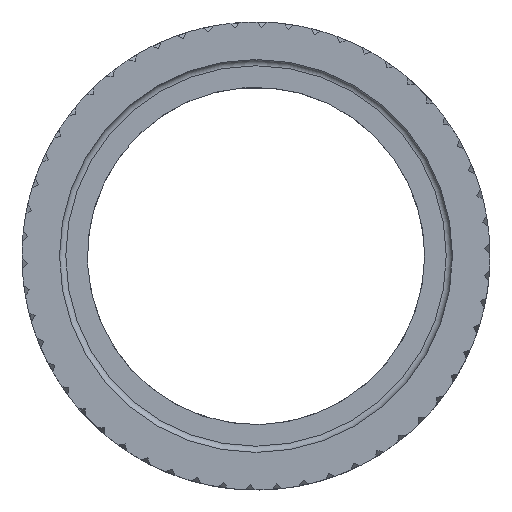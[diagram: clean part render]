
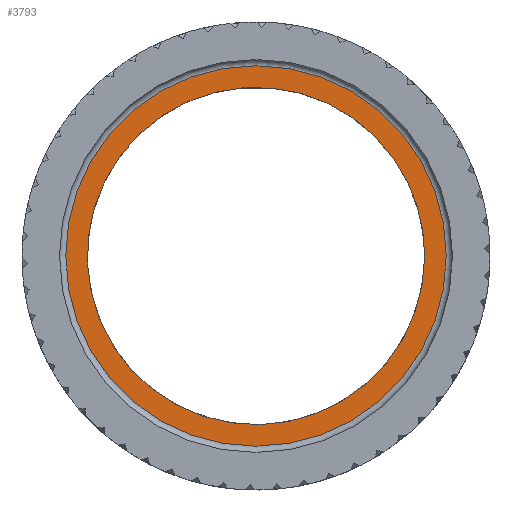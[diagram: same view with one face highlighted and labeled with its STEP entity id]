
A CAD part, top view. The second image highlights one B-rep face of the part: STEP entity #3793.
In plain terms, the highlighted planar face has unit normal (0, 0, 1).
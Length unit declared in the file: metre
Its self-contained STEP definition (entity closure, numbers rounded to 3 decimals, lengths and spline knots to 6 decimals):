
#425=PLANE('',#4034);
#492=CIRCLE('',#4035,0.03045);
#493=CIRCLE('',#4036,0.027);
#651=ORIENTED_EDGE('',*,*,#1951,.T.);
#652=ORIENTED_EDGE('',*,*,#1952,.T.);
#1951=EDGE_CURVE('',#2601,#2601,#492,.F.);
#1952=EDGE_CURVE('',#2602,#2602,#493,.T.);
#2601=VERTEX_POINT('',#4898);
#2602=VERTEX_POINT('',#4900);
#3320=EDGE_LOOP('',(#651));
#3321=EDGE_LOOP('',(#652));
#3556=FACE_BOUND('',#3320,.T.);
#3557=FACE_BOUND('',#3321,.T.);
#3793=ADVANCED_FACE('',(#3556,#3557),#425,.F.);
#4034=AXIS2_PLACEMENT_3D('',#4896,#4231,#4232);
#4035=AXIS2_PLACEMENT_3D('',#4897,#4233,#4234);
#4036=AXIS2_PLACEMENT_3D('',#4899,#4235,#4236);
#4231=DIRECTION('',(0.,0.,-1.));
#4232=DIRECTION('',(0.819,0.574,0.));
#4233=DIRECTION('',(0.,0.,-1.));
#4234=DIRECTION('',(1.,0.,0.));
#4235=DIRECTION('',(0.,0.,-1.));
#4236=DIRECTION('',(1.,0.,0.));
#4896=CARTESIAN_POINT('',(0.,0.,0.0718));
#4897=CARTESIAN_POINT('',(0.,0.,0.0718));
#4898=CARTESIAN_POINT('',(0.03045,0.,0.0718));
#4899=CARTESIAN_POINT('',(0.,0.,0.0718));
#4900=CARTESIAN_POINT('',(0.027,0.,0.0718));
